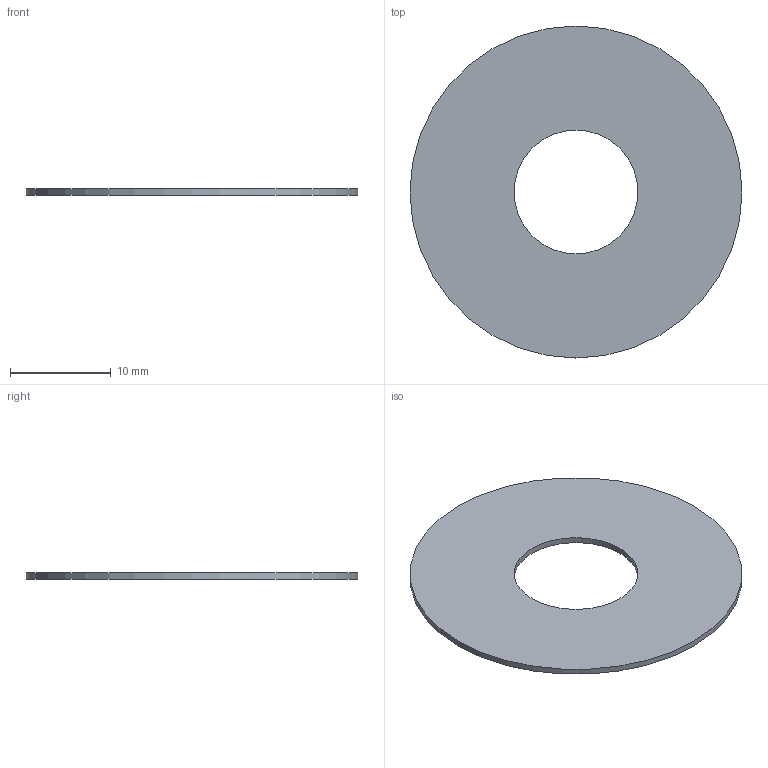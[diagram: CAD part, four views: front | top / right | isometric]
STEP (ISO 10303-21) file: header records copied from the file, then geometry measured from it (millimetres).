
FILE_DESCRIPTION(('FreeCAD Model'),'2;1');
FILE_NAME('Open CASCADE Shape Model','2026-09-21T09:26:54',('FreeCAD'),( 'FreeCAD'),'Open CASCADE STEP processor 7.8','FreeCAD','Unknown');
FILE_SCHEMA(('AUTOMOTIVE_DESIGN { 1 0 10303 214 1 1 1 1 }'));
Length unit declared in the file: millimetre
Products named in the file (1): Open CASCADE STEP translator 7.8 3
Bounding box: 33 x 33 x 0.6 mm (x, y, z)
Volume: 441.9 mm3; surface area: 1558.3 mm2
Topology: 1 solids, 1 shells, 4 faces, 6 edges, 4 vertices
Faces by surface type: cylinder 2, plane 2
Full cylindrical faces by diameter (mm): 12.3 x1, 33 x1
Entity records: 108 total; most frequent: DIRECTION 20, CARTESIAN_POINT 15, ORIENTED_EDGE 12, AXIS2_PLACEMENT_3D 9, FACE_BOUND 6, EDGE_LOOP 6, EDGE_CURVE 6, ADVANCED_FACE 4
